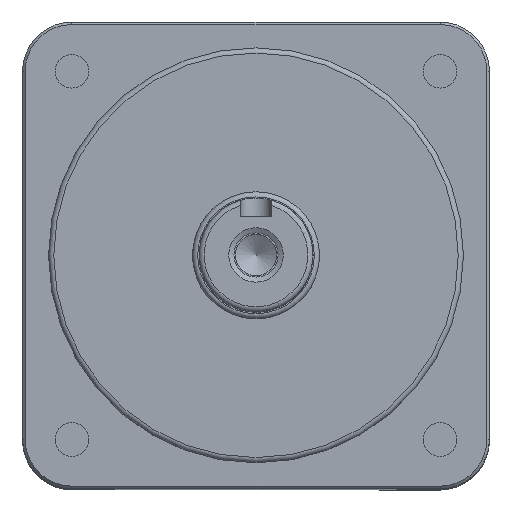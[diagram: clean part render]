
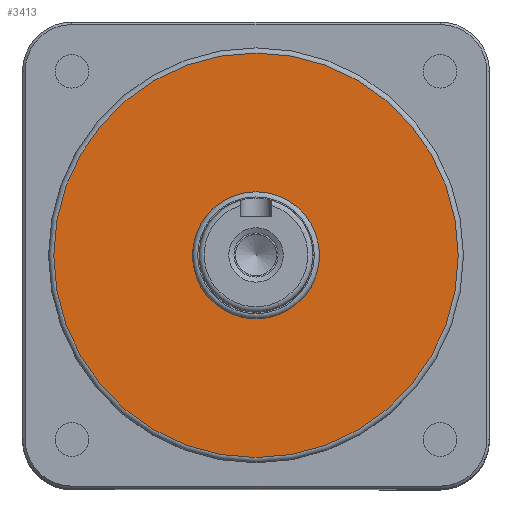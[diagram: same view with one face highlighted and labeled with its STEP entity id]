
A CAD part, top view. The second image highlights one B-rep face of the part: STEP entity #3413.
In plain terms, the highlighted planar face has unit normal (0, 0, 1).
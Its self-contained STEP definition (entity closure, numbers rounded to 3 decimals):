
#2875=CARTESIAN_POINT('',(-12.25,0.,-1.5));
#2876=VERTEX_POINT('',#2875);
#2877=CARTESIAN_POINT('',(0.0,0.0,-1.5));
#2878=DIRECTION('',(0.0,0.0,1.0));
#2879=DIRECTION('',(1.0,0.0,0.0));
#2880=AXIS2_PLACEMENT_3D('',#2877,#2878,#2879);
#2881=CIRCLE('',#2880,12.25);
#2882=EDGE_CURVE('',#2876,#2876,#2881,.T.);
#3390=CARTESIAN_POINT('',(-39.0,0.,-1.5));
#3391=VERTEX_POINT('',#3390);
#3392=CARTESIAN_POINT('',(0.0,0.0,-1.5));
#3393=DIRECTION('',(0.0,0.0,-1.0));
#3394=DIRECTION('',(1.0,0.0,0.0));
#3395=AXIS2_PLACEMENT_3D('',#3392,#3393,#3394);
#3396=CIRCLE('',#3395,39.0);
#3397=EDGE_CURVE('',#3391,#3391,#3396,.T.);
#3402=CARTESIAN_POINT('',(0.0,0.0,-1.5));
#3403=DIRECTION('',(0.0,0.0,1.0));
#3404=DIRECTION('',(1.0,0.0,0.0));
#3405=AXIS2_PLACEMENT_3D('',#3402,#3403,#3404);
#3406=PLANE('',#3405);
#3407=ORIENTED_EDGE('',*,*,#3397,.F.);
#3408=EDGE_LOOP('',(#3407));
#3409=FACE_OUTER_BOUND('',#3408,.T.);
#3410=ORIENTED_EDGE('',*,*,#2882,.F.);
#3411=EDGE_LOOP('',(#3410));
#3412=FACE_BOUND('',#3411,.T.);
#3413=ADVANCED_FACE('',(#3409,#3412),#3406,.T.);
